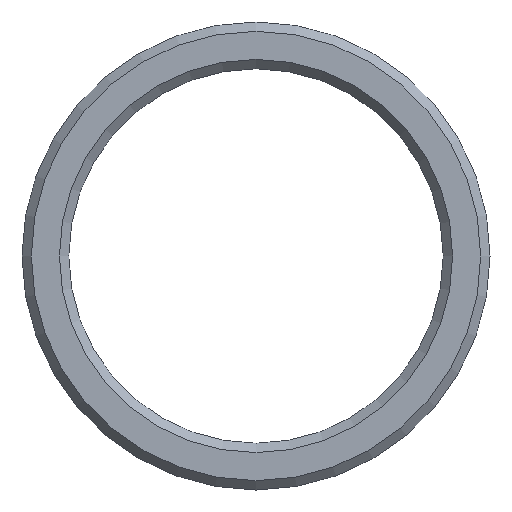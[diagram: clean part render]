
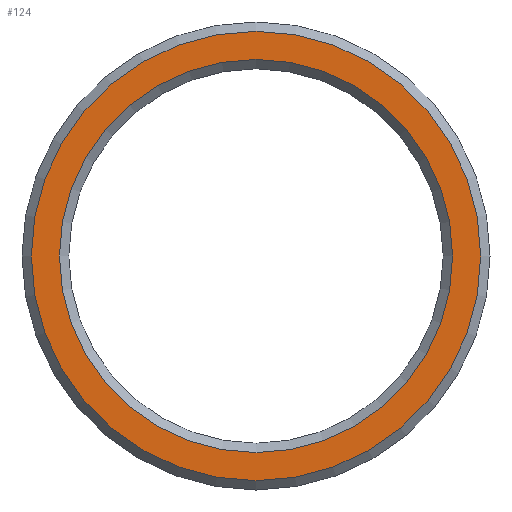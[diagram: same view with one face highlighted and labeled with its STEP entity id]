
A CAD part, left-side view. The second image highlights one B-rep face of the part: STEP entity #124.
In plain terms, the highlighted planar face has unit normal (-1, 0, 0).
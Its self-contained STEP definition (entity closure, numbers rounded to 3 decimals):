
#17=FACE_BOUND('',#31,.T.);
#19=PLANE('',#157);
#22=FACE_OUTER_BOUND('',#30,.T.);
#30=EDGE_LOOP('',(#91));
#31=EDGE_LOOP('',(#92));
#52=CIRCLE('',#156,10.5);
#53=CIRCLE('',#158,12.);
#62=VERTEX_POINT('',#220);
#63=VERTEX_POINT('',#224);
#73=EDGE_CURVE('',#62,#62,#52,.T.);
#74=EDGE_CURVE('',#63,#63,#53,.T.);
#91=ORIENTED_EDGE('',*,*,#74,.F.);
#92=ORIENTED_EDGE('',*,*,#73,.F.);
#124=ADVANCED_FACE('',(#22,#17),#19,.F.);
#156=AXIS2_PLACEMENT_3D('',#222,#179,#180);
#157=AXIS2_PLACEMENT_3D('',#223,#181,#182);
#158=AXIS2_PLACEMENT_3D('',#225,#183,#184);
#179=DIRECTION('center_axis',(-1.,0.,0.));
#180=DIRECTION('ref_axis',(0.,-1.,0.));
#181=DIRECTION('center_axis',(1.,0.,0.));
#182=DIRECTION('ref_axis',(0.,0.,-1.));
#183=DIRECTION('center_axis',(1.,0.,0.));
#184=DIRECTION('ref_axis',(0.,-1.,0.));
#220=CARTESIAN_POINT('',(0.,10.5,0.));
#222=CARTESIAN_POINT('Origin',(0.,0.,0.));
#223=CARTESIAN_POINT('Origin',(0.,0.,0.));
#224=CARTESIAN_POINT('',(0.,12.,0.));
#225=CARTESIAN_POINT('Origin',(0.,0.,0.));
